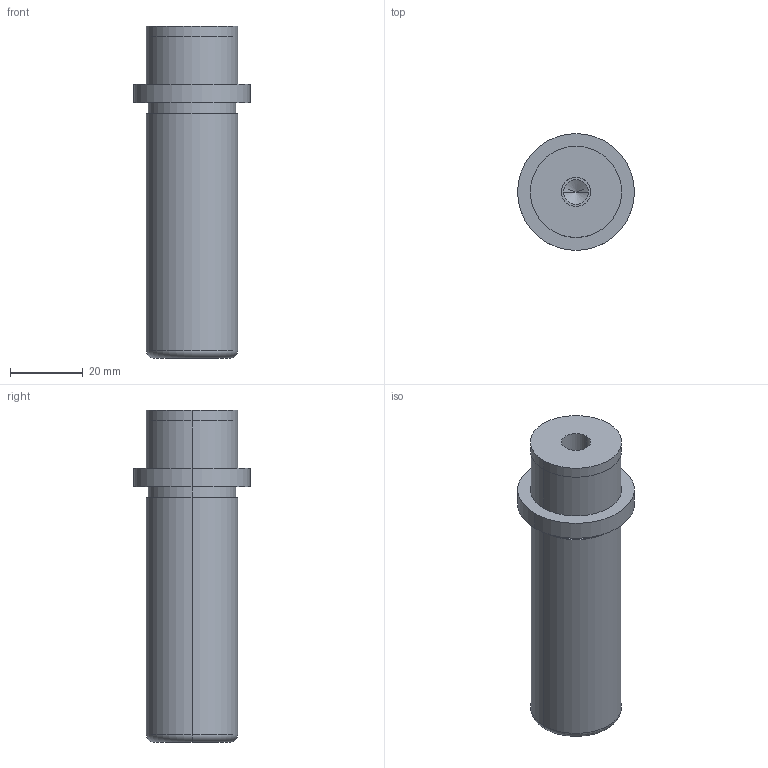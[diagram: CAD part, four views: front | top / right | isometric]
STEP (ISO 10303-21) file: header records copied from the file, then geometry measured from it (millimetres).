
FILE_DESCRIPTION(/* description */ (''),/* implementation_level */ '2;1');
FILE_NAME(/* name */ '3d_sgpw25-75_05243_r00.stp',/* time_stamp */ '2011-01-10T14:11:03+09:00',/* author */ ('MISUMI'),/* organization */ (''),/* preprocessor_version */ 'ST-DEVELOPER v11',/* originating_system */ 'UGS - NX 5.0',/* authorisation */ '');
FILE_SCHEMA (('CONFIG_CONTROL_DESIGN'));
Length unit declared in the file: millimetre
Products named in the file (1): 3d_sgpw25-75_05243_r00
Bounding box: 32 x 32 x 91 mm (x, y, z)
Volume: 44053.6 mm3; surface area: 9865.4 mm2
Topology: 1 solids, 1 shells, 31 faces, 64 edges, 38 vertices
Faces by surface type: cylinder 18, plane 7, cone 4, torus 2
Entity records: 890 total; most frequent: DIRECTION 162, CARTESIAN_POINT 130, ORIENTED_EDGE 120, AXIS2_PLACEMENT_3D 70, EDGE_CURVE 60, EDGE_LOOP 38, CIRCLE 38, VERTEX_POINT 38
